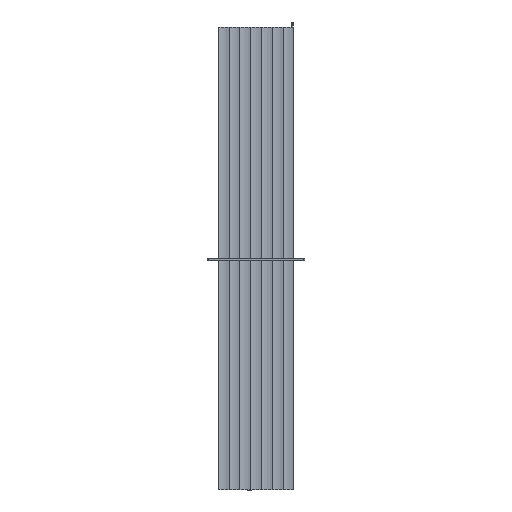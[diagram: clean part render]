
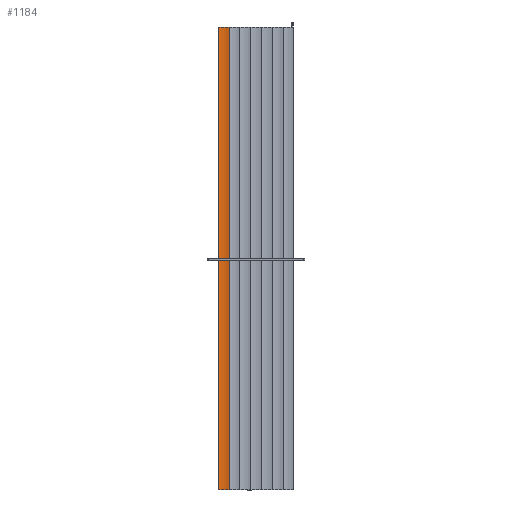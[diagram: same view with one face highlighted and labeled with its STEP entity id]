
A CAD part, front view. The second image highlights one B-rep face of the part: STEP entity #1184.
In plain terms, the highlighted cylindrical face has radius 72.5 mm (diameter 145 mm), a partial arc.
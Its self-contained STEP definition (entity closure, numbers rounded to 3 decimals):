
#1184 = ADVANCED_FACE ( 'NONE', ( #1738 ), #12906, .F. ) ;
#1421 = EDGE_CURVE ( 'NONE', #12524, #16355, #3232, .T. ) ;
#1710 = DIRECTION ( 'NONE',  ( 1., 0., 0. ) ) ;
#1738 = FACE_OUTER_BOUND ( 'NONE', #11624, .T. ) ;
#1975 = DIRECTION ( 'NONE',  ( 0., 0., -1. ) ) ;
#2318 = EDGE_CURVE ( 'NONE', #14359, #16355, #10018, .T. ) ;
#2753 = CARTESIAN_POINT ( 'NONE',  ( 37.153, 82.756, 0. ) ) ;
#3232 = CIRCLE ( 'NONE', #13628, 72.5 ) ;
#4557 = ORIENTED_EDGE ( 'NONE', *, *, #13138, .T. ) ;
#4971 = LINE ( 'NONE', #16104, #6649 ) ;
#6122 = CARTESIAN_POINT ( 'NONE',  ( 78.095, 82.613, 0. ) ) ;
#6339 = CARTESIAN_POINT ( 'NONE',  ( 37.153, 82.756, 1800. ) ) ;
#6649 = VECTOR ( 'NONE', #1975, 1000. ) ;
#7267 = CARTESIAN_POINT ( 'NONE',  ( 78.095, 82.613, 1800. ) ) ;
#9771 = VECTOR ( 'NONE', #13008, 1000. ) ;
#10018 = LINE ( 'NONE', #7267, #9771 ) ;
#10028 = DIRECTION ( 'NONE',  ( 0., 0., -1. ) ) ;
#11511 = DIRECTION ( 'NONE',  ( -1., 0., 0. ) ) ;
#11577 = DIRECTION ( 'NONE',  ( 0., 0., -1. ) ) ;
#11624 = EDGE_LOOP ( 'NONE', ( #17096, #16139, #13099, #4557 ) ) ;
#11888 = CARTESIAN_POINT ( 'NONE',  ( 57.381, 13.135, 1800. ) ) ;
#12524 = VERTEX_POINT ( 'NONE', #2753 ) ;
#12906 = CYLINDRICAL_SURFACE ( 'NONE', #17181, 72.5 ) ;
#13008 = DIRECTION ( 'NONE',  ( 0., 0., -1. ) ) ;
#13020 = CARTESIAN_POINT ( 'NONE',  ( 57.381, 13.135, 1800. ) ) ;
#13099 = ORIENTED_EDGE ( 'NONE', *, *, #13459, .F. ) ;
#13116 = CARTESIAN_POINT ( 'NONE',  ( 78.095, 82.613, 1800. ) ) ;
#13138 = EDGE_CURVE ( 'NONE', #13565, #12524, #4971, .T. ) ;
#13278 = DIRECTION ( 'NONE',  ( 0., 0., -1. ) ) ;
#13459 = EDGE_CURVE ( 'NONE', #13565, #14359, #17922, .T. ) ;
#13565 = VERTEX_POINT ( 'NONE', #6339 ) ;
#13628 = AXIS2_PLACEMENT_3D ( 'NONE', #14647, #11577, #1710 ) ;
#14359 = VERTEX_POINT ( 'NONE', #13116 ) ;
#14647 = CARTESIAN_POINT ( 'NONE',  ( 57.381, 13.135, 0. ) ) ;
#16104 = CARTESIAN_POINT ( 'NONE',  ( 37.153, 82.756, 1800. ) ) ;
#16139 = ORIENTED_EDGE ( 'NONE', *, *, #2318, .F. ) ;
#16355 = VERTEX_POINT ( 'NONE', #6122 ) ;
#17026 = AXIS2_PLACEMENT_3D ( 'NONE', #13020, #10028, #17106 ) ;
#17096 = ORIENTED_EDGE ( 'NONE', *, *, #1421, .T. ) ;
#17106 = DIRECTION ( 'NONE',  ( 1., 0., 0. ) ) ;
#17181 = AXIS2_PLACEMENT_3D ( 'NONE', #11888, #13278, #11511 ) ;
#17922 = CIRCLE ( 'NONE', #17026, 72.5 ) ;
